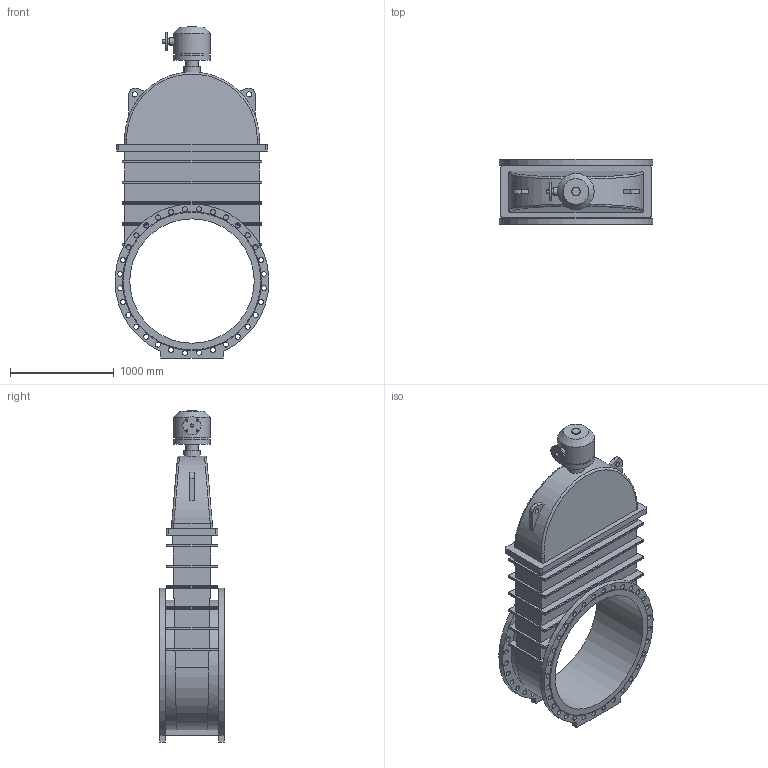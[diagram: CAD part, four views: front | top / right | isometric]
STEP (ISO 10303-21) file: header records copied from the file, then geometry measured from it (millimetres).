
FILE_DESCRIPTION(('STEP AP203'), '1');
FILE_NAME('Çàäâèæêà 47GV.Z DN1200 PN16 + ðåäóêòîð ñ âõîäíûì ôëàíöåì', '', ('UNSPECIFIED'), ('UNSPECIFIED'), 'ASCON STEP Converter 1.6', 'ASCON Math Kernel', '');
FILE_SCHEMA(('CONFIG_CONTROL_DESIGN'));
Length unit declared in the file: millimetre
Bounding box: 1483.95 x 630 x 3202.5 mm (x, y, z)
Volume: 837478973.7 mm3; surface area: 15064693.3 mm2
Topology: 1 solids, 1 shells, 360 faces, 905 edges, 571 vertices
Faces by surface type: cylinder 179, plane 130, bspline 48, cone 3
Full cylindrical faces by diameter (mm): 18 x4, 49 x64, 50 x3, 70 x1, 80 x1, 120 x1, 160 x1, 175 x1, 330 x1, 350 x2, 1200 x1
Entity records: 18447 total; most frequent: CARTESIAN_POINT 7309, ORIENTED_EDGE 1644, DIRECTION 1575, EDGE_CURVE 822, EDGE_LOOP 609, AXIS2_PLACEMENT_3D 596, VERTEX_POINT 571, FACE_BOUND 443
